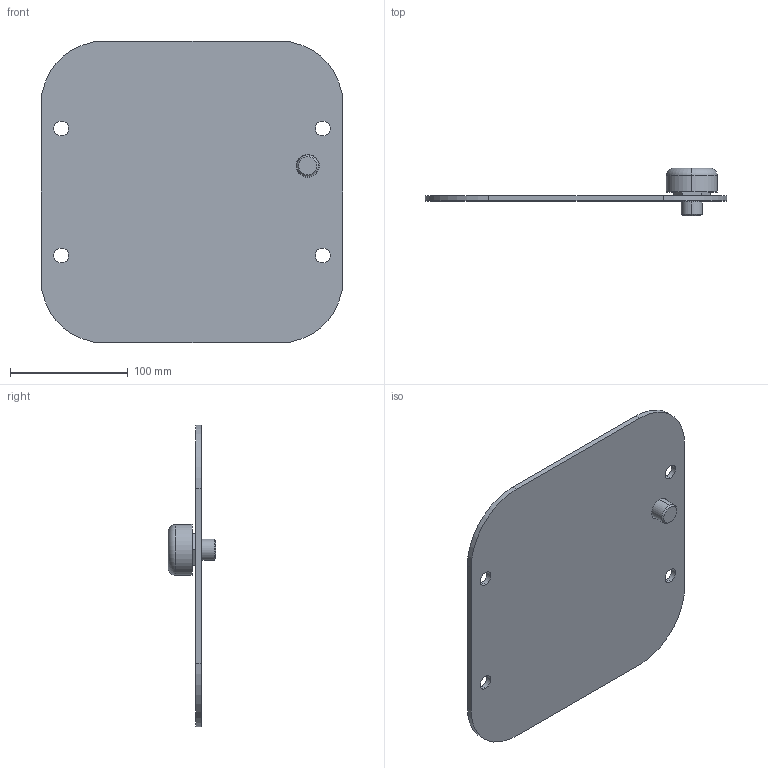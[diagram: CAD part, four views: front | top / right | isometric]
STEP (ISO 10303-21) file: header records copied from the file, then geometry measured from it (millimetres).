
FILE_DESCRIPTION (( 'STEP AP203' ), '1' );
FILE_NAME ('RVPT-2.STEP', '2015-01-08T15:17:05', ( '' ), ( '' ), 'SwSTEP 2.0', 'SolidWorks 2014', '' );
FILE_SCHEMA (( 'CONFIG_CONTROL_DESIGN' ));
Length unit declared in the file: inch
Products named in the file (1): RVPT-2
Bounding box: 256.79 x 40.64 x 256.79 mm (x, y, z)
Volume: 320180.1 mm3; surface area: 136997.2 mm2
Topology: 2 solids, 2 shells, 38 faces, 92 edges, 60 vertices
Faces by surface type: cylinder 16, plane 16, cone 4, torus 2
Entity records: 1223 total; most frequent: DIRECTION 212, CARTESIAN_POINT 191, ORIENTED_EDGE 184, EDGE_CURVE 92, AXIS2_PLACEMENT_3D 81, VERTEX_POINT 60, LINE 50, VECTOR 50
